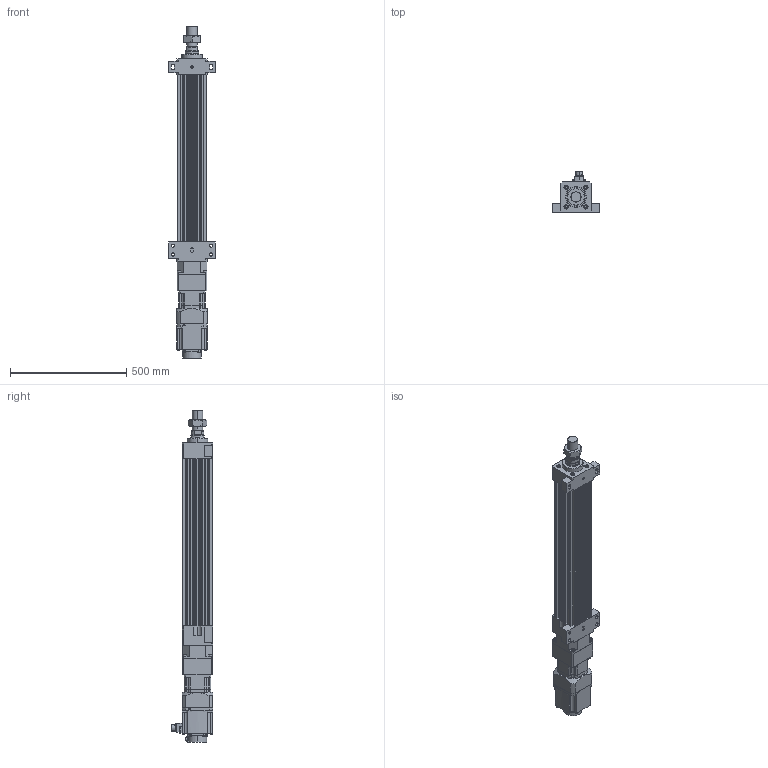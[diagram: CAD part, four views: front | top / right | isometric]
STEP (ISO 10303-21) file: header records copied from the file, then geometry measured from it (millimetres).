
FILE_DESCRIPTION (( 'STEP AP203' ), '1' );
FILE_NAME ('HES130NS(FS)(HS)-S500-W015G00-M-FFB.STEP', '2023-01-30T09:18:53', ( 'tms' ), ( '' ), 'SwSTEP 2.0', 'SolidWorks 2013', '' );
FILE_SCHEMA (( 'CONFIG_CONTROL_DESIGN' ));
Length unit declared in the file: millimetre
Products named in the file (8): HES130-S500-G120-FFB; AB115-003[HG-SR152]; HG-SR152; HES130NS(FS)(HS)-S500-W015G00-M-FFB; M45X1.5P; P0401400706; AB1151; HES130 ROD M ST500
Assembly tree (7 placements, depth 3):
  HES130NS(FS)(HS)-S500-W015G00-M-FFB
    HES130-S500-G120-FFB
    HES130 ROD M ST500
    M45X1.5P
    AB115-003[HG-SR152]
      AB1151
      P0401400706
    HG-SR152
Bounding box: 200 x 177.49 x 1429.5 mm (x, y, z)
Volume: 11439495.6 mm3; surface area: 1481109.9 mm2
Topology: 4 solids, 15 shells, 1211 faces, 3070 edges, 1998 vertices
Faces by surface type: plane 571, cylinder 546, cone 82, bspline 8, torus 4
Entity records: 38310 total; most frequent: CARTESIAN_POINT 7264, DIRECTION 6633, ORIENTED_EDGE 6092, EDGE_CURVE 3056, AXIS2_PLACEMENT_3D 2435, VERTEX_POINT 1998, LINE 1763, VECTOR 1763
